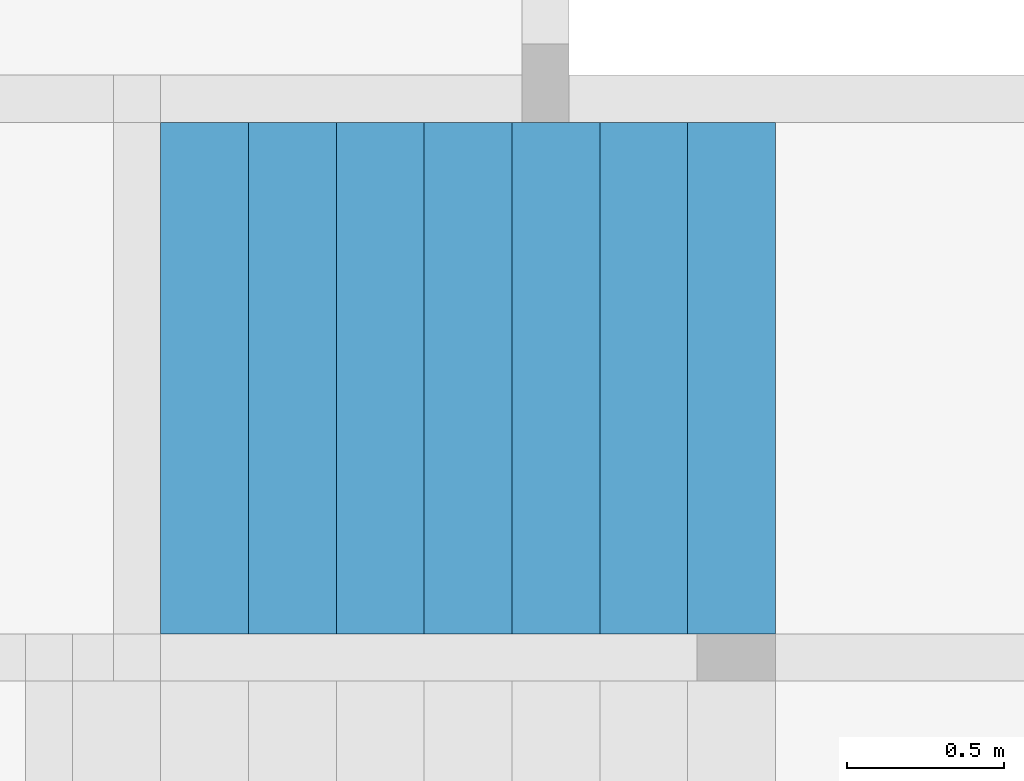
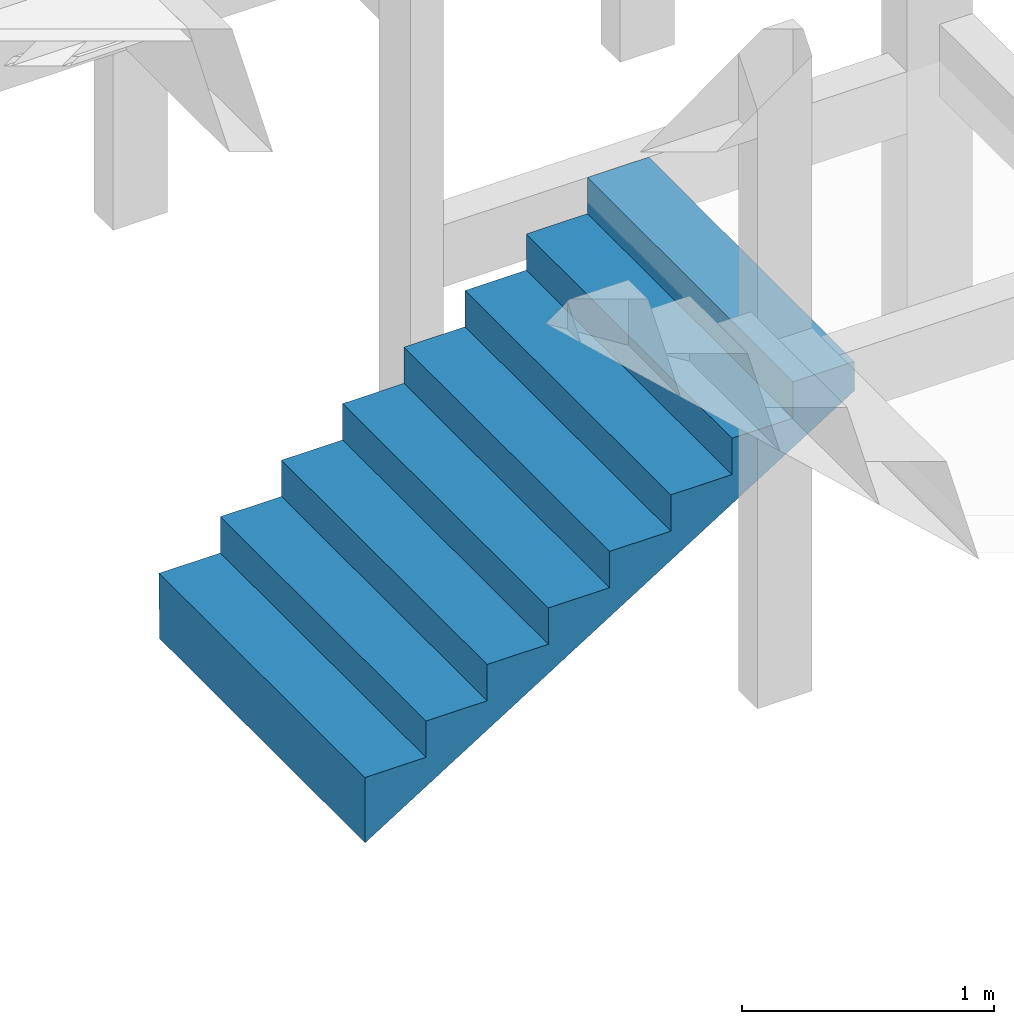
# One storey, part 11 of 11: 1 stair flight.
"""IFC4 building model written with IfcOpenShell, lengths in centimetres."""

from ifc_helpers import new_model, si_unit, derived_unit, frame, origin_with_axes, place, context, project, spatial, faceted_brep, material, element, save


model = new_model("IFC4")

# Units and contexts
model_context = context("Model", 3, precision=1e-05, world=origin_with_axes(), identifier="Body")
ifc_project = project(units=[si_unit("LENGTHUNIT", "METRE", prefix="CENTI"), si_unit("VOLUMEUNIT", "CUBIC_METRE"), si_unit("AREAUNIT", "SQUARE_METRE"), si_unit("POWERUNIT", "WATT"), si_unit("LUMINOUSFLUXUNIT", "LUMEN"), si_unit("ELECTRICCURRENTUNIT", "AMPERE"), si_unit("PRESSUREUNIT", "PASCAL", prefix="KILO"), si_unit("MASSUNIT", "GRAM", prefix="KILO"), si_unit("PLANEANGLEUNIT", "RADIAN"), derived_unit("VOLUMETRICFLOWRATEUNIT", [(si_unit("LENGTHUNIT", "METRE"), 3), (si_unit("TIMEUNIT", "SECOND"), -1)])], contexts=[model_context])

# Site, building, storey
site_placement = place(None, origin_with_axes())
site = spatial("IfcSite", under=ifc_project, at=site_placement)
building_placement = place(site_placement, frame((0.0, 0.0, -295.0)))
building = spatial("IfcBuilding", under=site, at=building_placement)
placement_1 = place(building_placement, origin_with_axes())
placement_2 = place(placement_1, frame((0.0, 0.0, 101.0), z_axis=(0.0, 0.0, 1.0), x_axis=(1.0, 0.0, 0.0)))
placement_3 = place(placement_2, frame((0.0, 0.0, 204.0), z_axis=(0.0, 0.0, 1.0), x_axis=(1.0, 0.0, 0.0)))
storey_placement = place(placement_3, frame((0.0, 0.0, 292.0), z_axis=(0.0, 0.0, 1.0), x_axis=(1.0, 0.0, 0.0)))
storey = spatial("IfcBuildingStorey", under=building, at=storey_placement, Name="PAVTO 01", CompositionType="ELEMENT", Elevation=302.0)

# Stair flight
ifc_material = material(Name="Concreto")
stair_flight_placement = place(storey_placement, frame((3756.59, -6917.8, -175.6), z_axis=(0.0, 0.0, 1.0), x_axis=(1.0, 0.0, 0.0)))
element("IfcStairFlight", 1, at=stair_flight_placement, inside=storey, material=ifc_material, Name="LE1", NumberOfRisers=0, NumberOfTreads=0, context=model_context, shape_type="Brep", body=[
    faceted_brep([(112.0, 81.51, 0.0), (84.0, 81.51, 0.0), (84.0, -81.51, 0.0), (112.0, -81.51, 0.0), (84.0, 81.51, -31.71234047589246), (112.0, 81.51, -14.162340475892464), (112.0, -81.51, -14.162340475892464), (84.0, -81.51, -31.71234047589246), (112.0, 81.51, -14.162340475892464), (112.0, 81.51, 0.0), (112.0, -81.51, 0.0), (112.0, -81.51, -14.162340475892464), (84.0, 81.51, 0.0), (84.0, 81.51, -31.71234047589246), (84.0, -81.51, -31.71234047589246), (84.0, -81.51, 0.0), (84.0, -81.51, -31.71234047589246), (112.0, -81.51, -14.162340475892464), (112.0, -81.51, 0.0), (84.0, -81.51, 0.0), (84.0, 81.51, -31.71234047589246), (84.0, 81.51, 0.0), (112.0, 81.51, 0.0), (112.0, 81.51, -14.162340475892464), (84.0, 81.51, -17.55), (56.0, 81.51, -17.55), (56.0, -81.51, -17.55), (84.0, -81.51, -17.55), (56.0, 81.51, -49.26234047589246), (84.0, 81.51, -31.71234047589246), (84.0, -81.51, -31.71234047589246), (56.0, -81.51, -49.26234047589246), (84.0, 81.51, -31.71234047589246), (84.0, 81.51, -17.55), (84.0, -81.51, -17.55), (84.0, -81.51, -31.71234047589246), (56.0, 81.51, -17.55), (56.0, 81.51, -49.26234047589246), (56.0, -81.51, -49.26234047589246), (56.0, -81.51, -17.55), (56.0, -81.51, -49.26234047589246), (84.0, -81.51, -31.71234047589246), (84.0, -81.51, -17.55), (56.0, -81.51, -17.55), (56.0, 81.51, -49.26234047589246), (56.0, 81.51, -17.55), (84.0, 81.51, -17.55), (84.0, 81.51, -31.71234047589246), (56.0, 81.51, -35.1), (28.0, 81.51, -35.1), (28.0, -81.51, -35.1), (56.0, -81.51, -35.1), (28.0, 81.51, -66.81234047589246), (56.0, 81.51, -49.26234047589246), (56.0, -81.51, -49.26234047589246), (28.0, -81.51, -66.81234047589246), (56.0, 81.51, -49.26234047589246), (56.0, 81.51, -35.1), (56.0, -81.51, -35.1), (56.0, -81.51, -49.26234047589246), (28.0, 81.51, -35.1), (28.0, 81.51, -66.81234047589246), (28.0, -81.51, -66.81234047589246), (28.0, -81.51, -35.1), (28.0, -81.51, -66.81234047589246), (56.0, -81.51, -49.26234047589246), (56.0, -81.51, -35.1), (28.0, -81.51, -35.1), (28.0, 81.51, -66.81234047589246), (28.0, 81.51, -35.1), (56.0, 81.51, -35.1), (56.0, 81.51, -49.26234047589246), (28.0, 81.51, -52.65), (0.0, 81.51, -52.65), (0.0, -81.51, -52.65), (28.0, -81.51, -52.65), (0.0, 81.51, -84.36234047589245), (28.0, 81.51, -66.81234047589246), (28.0, -81.51, -66.81234047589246), (0.0, -81.51, -84.36234047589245), (28.0, 81.51, -66.81234047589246), (28.0, 81.51, -52.65), (28.0, -81.51, -52.65), (28.0, -81.51, -66.81234047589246), (0.0, 81.51, -52.65), (0.0, 81.51, -84.36234047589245), (0.0, -81.51, -84.36234047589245), (0.0, -81.51, -52.65), (0.0, -81.51, -84.36234047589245), (28.0, -81.51, -66.81234047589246), (28.0, -81.51, -52.65), (0.0, -81.51, -52.65), (0.0, 81.51, -84.36234047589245), (0.0, 81.51, -52.65), (28.0, 81.51, -52.65), (28.0, 81.51, -66.81234047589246), (0.0, 81.51, -70.2), (-28.0, 81.51, -70.2), (-28.0, -81.51, -70.2), (0.0, -81.51, -70.2), (-28.0, 81.51, -101.91234047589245), (0.0, 81.51, -84.36234047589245), (0.0, -81.51, -84.36234047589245), (-28.0, -81.51, -101.91234047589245), (0.0, 81.51, -84.36234047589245), (0.0, 81.51, -70.2), (0.0, -81.51, -70.2), (0.0, -81.51, -84.36234047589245), (-28.0, 81.51, -70.2), (-28.0, 81.51, -101.91234047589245), (-28.0, -81.51, -101.91234047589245), (-28.0, -81.51, -70.2), (-28.0, -81.51, -101.91234047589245), (0.0, -81.51, -84.36234047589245), (0.0, -81.51, -70.2), (-28.0, -81.51, -70.2), (-28.0, 81.51, -101.91234047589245), (-28.0, 81.51, -70.2), (0.0, 81.51, -70.2), (0.0, 81.51, -84.36234047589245), (-28.0, 81.51, -87.75), (-56.0, 81.51, -87.75), (-56.0, -81.51, -87.75), (-28.0, -81.51, -87.75), (-56.0, 81.51, -119.46234047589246), (-28.0, 81.51, -101.91234047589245), (-28.0, -81.51, -101.91234047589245), (-56.0, -81.51, -119.46234047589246), (-28.0, 81.51, -101.91234047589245), (-28.0, 81.51, -87.75), (-28.0, -81.51, -87.75), (-28.0, -81.51, -101.91234047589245), (-56.0, 81.51, -87.75), (-56.0, 81.51, -119.46234047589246), (-56.0, -81.51, -119.46234047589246), (-56.0, -81.51, -87.75), (-56.0, -81.51, -119.46234047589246), (-28.0, -81.51, -101.91234047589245), (-28.0, -81.51, -87.75), (-56.0, -81.51, -87.75), (-56.0, 81.51, -119.46234047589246), (-56.0, 81.51, -87.75), (-28.0, 81.51, -87.75), (-28.0, 81.51, -101.91234047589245), (-56.0, 81.51, -105.3), (-84.0, 81.51, -105.3), (-84.0, -81.51, -105.3), (-56.0, -81.51, -105.3), (-84.0, 81.51, -137.01234047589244), (-56.0, 81.51, -119.46234047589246), (-56.0, -81.51, -119.46234047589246), (-84.0, -81.51, -137.01234047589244), (-56.0, 81.51, -119.46234047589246), (-56.0, 81.51, -105.3), (-56.0, -81.51, -105.3), (-56.0, -81.51, -119.46234047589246), (-84.0, 81.51, -105.3), (-84.0, 81.51, -137.01234047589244), (-84.0, -81.51, -137.01234047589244), (-84.0, -81.51, -105.3), (-84.0, -81.51, -137.01234047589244), (-56.0, -81.51, -119.46234047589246), (-56.0, -81.51, -105.3), (-84.0, -81.51, -105.3), (-84.0, 81.51, -137.01234047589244), (-84.0, 81.51, -105.3), (-56.0, 81.51, -105.3), (-56.0, 81.51, -119.46234047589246), (-84.0, 81.51, -122.85), (-111.84, 81.51, -122.85), (-111.84, -81.51, -122.85), (-84.0, -81.51, -122.85), (-111.84, 81.51, -154.46205476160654), (-84.0, 81.51, -137.01234047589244), (-84.0, -81.51, -137.01234047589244), (-111.84, -81.51, -154.46205476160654), (-84.0, 81.51, -137.01234047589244), (-84.0, 81.51, -122.85), (-84.0, -81.51, -122.85), (-84.0, -81.51, -137.01234047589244), (-111.84, 81.51, -122.85), (-111.84, 81.51, -154.46205476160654), (-111.84, -81.51, -154.46205476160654), (-111.84, -81.51, -122.85), (-111.84, -81.51, -154.46205476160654), (-84.0, -81.51, -137.01234047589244), (-84.0, -81.51, -122.85), (-111.84, -81.51, -122.85), (-111.84, 81.51, -154.46205476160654), (-111.84, 81.51, -122.85), (-84.0, 81.51, -122.85), (-84.0, 81.51, -137.01234047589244), (-111.84, 81.51, -122.85), (-112.0, 81.51, -122.85), (-112.0, -81.51, -122.85), (-111.84, -81.51, -122.85), (-112.0, 81.51, -140.4), (-111.84, 81.51, -140.4), (-111.84, -81.51, -140.4), (-112.0, -81.51, -140.4), (-111.84, 81.51, -140.4), (-111.84, 81.51, -122.85), (-111.84, -81.51, -122.85), (-111.84, -81.51, -140.4), (-112.0, 81.51, -122.85), (-112.0, 81.51, -140.4), (-112.0, -81.51, -140.4), (-112.0, -81.51, -122.85), (-112.0, -81.51, -140.4), (-111.84, -81.51, -140.4), (-111.84, -81.51, -122.85), (-112.0, -81.51, -122.85), (-112.0, 81.51, -140.4), (-112.0, 81.51, -122.85), (-111.84, 81.51, -122.85), (-111.84, 81.51, -140.4)], [[[0, 1, 2, 3]], [[4, 5, 6, 7]], [[8, 9, 10, 11]], [[12, 13, 14, 15]], [[16, 17, 18, 19]], [[20, 21, 22, 23]], [[24, 25, 26, 27]], [[28, 29, 30, 31]], [[32, 33, 34, 35]], [[36, 37, 38, 39]], [[40, 41, 42, 43]], [[44, 45, 46, 47]], [[48, 49, 50, 51]], [[52, 53, 54, 55]], [[56, 57, 58, 59]], [[60, 61, 62, 63]], [[64, 65, 66, 67]], [[68, 69, 70, 71]], [[72, 73, 74, 75]], [[76, 77, 78, 79]], [[80, 81, 82, 83]], [[84, 85, 86, 87]], [[88, 89, 90, 91]], [[92, 93, 94, 95]], [[96, 97, 98, 99]], [[100, 101, 102, 103]], [[104, 105, 106, 107]], [[108, 109, 110, 111]], [[112, 113, 114, 115]], [[116, 117, 118, 119]], [[120, 121, 122, 123]], [[124, 125, 126, 127]], [[128, 129, 130, 131]], [[132, 133, 134, 135]], [[136, 137, 138, 139]], [[140, 141, 142, 143]], [[144, 145, 146, 147]], [[148, 149, 150, 151]], [[152, 153, 154, 155]], [[156, 157, 158, 159]], [[160, 161, 162, 163]], [[164, 165, 166, 167]], [[168, 169, 170, 171]], [[172, 173, 174, 175]], [[176, 177, 178, 179]], [[180, 181, 182, 183]], [[184, 185, 186, 187]], [[188, 189, 190, 191]], [[192, 193, 194, 195]], [[196, 197, 198, 199]], [[200, 201, 202, 203]], [[204, 205, 206, 207]], [[208, 209, 210, 211]], [[212, 213, 214, 215]]]),
])

save(model, "model.ifc")
